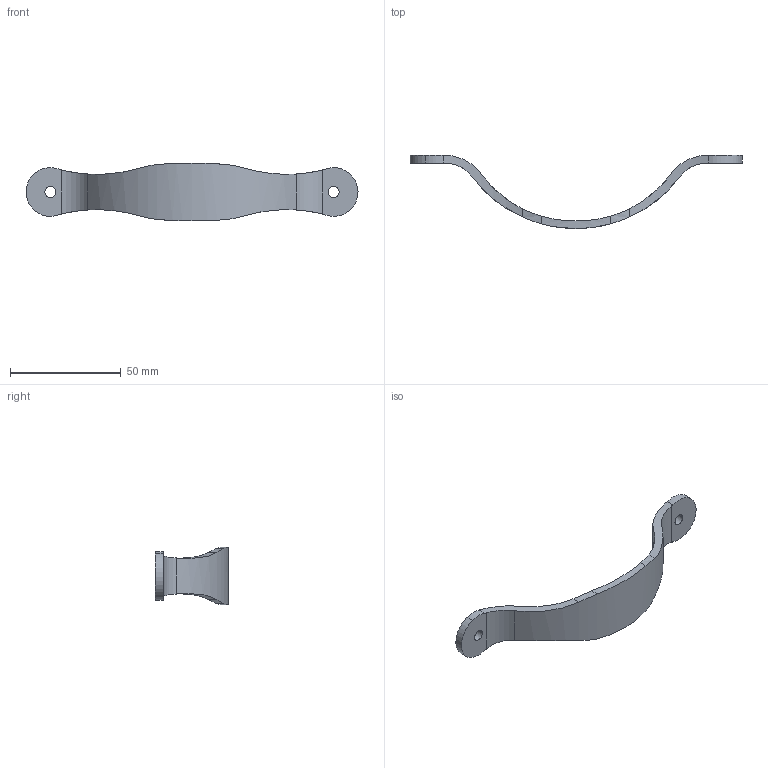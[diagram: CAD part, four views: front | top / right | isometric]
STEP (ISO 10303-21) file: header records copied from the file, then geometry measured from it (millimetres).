
FILE_DESCRIPTION( ( '' ), '1' );
FILE_NAME( 'C:/Documents and Settings/Sachin/Desktop/Sheet 10_1/stp/9113645.stp', '2013-10-22T11:54:04', ( '' ), ( '' ), ' ', ' ', ' ' );
FILE_SCHEMA( ( 'CONFIG_CONTROL_DESIGN' ) );
Length unit declared in the file: millimetre
Products named in the file (1): 1
Bounding box: 149.99 x 33 x 26 mm (x, y, z)
Volume: 11576 mm3; surface area: 8010.9 mm2
Topology: 1 solids, 1 shells, 29 faces, 83 edges, 56 vertices
Faces by surface type: cylinder 25, plane 4
Entity records: 1345 total; most frequent: CARTESIAN_POINT 569, ORIENTED_EDGE 166, DIRECTION 135, EDGE_CURVE 83, VERTEX_POINT 56, AXIS2_PLACEMENT_3D 54, EDGE_LOOP 33, B_SPLINE_CURVE_WITH_KNOTS 32
